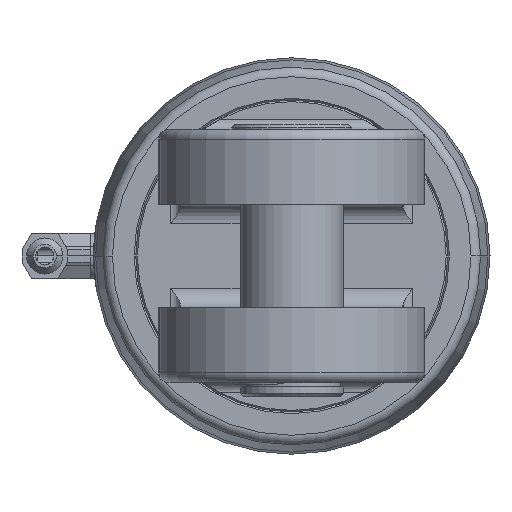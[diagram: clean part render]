
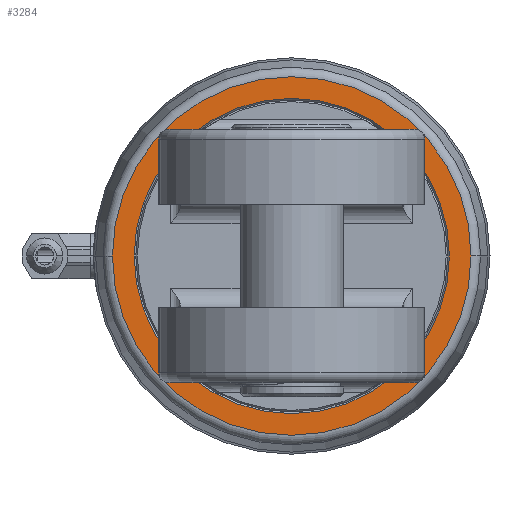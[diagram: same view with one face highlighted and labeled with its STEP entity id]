
A CAD part, left-side view. The second image highlights one B-rep face of the part: STEP entity #3284.
In plain terms, the highlighted planar face has unit normal (-1, 0, 0).
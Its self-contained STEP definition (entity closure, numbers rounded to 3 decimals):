
#67 = EDGE_LOOP ( 'NONE', ( #3268, #1676 ) ) ;
#245 = CARTESIAN_POINT ( 'NONE',  ( -938., -48.5, 0. ) ) ;
#301 = CARTESIAN_POINT ( 'NONE',  ( -938., 0., 0. ) ) ;
#346 = CARTESIAN_POINT ( 'NONE',  ( -938., 55.17, 0. ) ) ;
#418 = DIRECTION ( 'NONE',  ( 0., -1., 0. ) ) ;
#436 = CARTESIAN_POINT ( 'NONE',  ( -938., 0., 57.599 ) ) ;
#494 = VERTEX_POINT ( 'NONE', #3327 ) ;
#799 = AXIS2_PLACEMENT_3D ( 'NONE', #301, #2432, #1007 ) ;
#893 = FACE_OUTER_BOUND ( 'NONE', #67, .T. ) ;
#1007 = DIRECTION ( 'NONE',  ( 0., 1., 0. ) ) ;
#1023 = AXIS2_PLACEMENT_3D ( 'NONE', #5219, #2157, #5742 ) ;
#1072 = FACE_BOUND ( 'NONE', #5602, .T. ) ;
#1076 = CARTESIAN_POINT ( 'NONE',  ( -938., 48.5, 0. ) ) ;
#1151 = AXIS2_PLACEMENT_3D ( 'NONE', #436, #6442, #1352 ) ;
#1318 = CARTESIAN_POINT ( 'NONE',  ( -938., 0., 0. ) ) ;
#1352 = DIRECTION ( 'NONE',  ( 0., -1., 0. ) ) ;
#1676 = ORIENTED_EDGE ( 'NONE', *, *, #4443, .T. ) ;
#1825 = DIRECTION ( 'NONE',  ( 0., 1., 0. ) ) ;
#2110 = CIRCLE ( 'NONE', #799, 48.5 ) ;
#2157 = DIRECTION ( 'NONE',  ( -1., 0., 0. ) ) ;
#2432 = DIRECTION ( 'NONE',  ( 1., 0., 0. ) ) ;
#2899 = CIRCLE ( 'NONE', #1023, 55.17 ) ;
#3211 = CIRCLE ( 'NONE', #6404, 55.17 ) ;
#3268 = ORIENTED_EDGE ( 'NONE', *, *, #3984, .T. ) ;
#3284 = ADVANCED_FACE ( 'NONE', ( #893, #1072 ), #5076, .T. ) ;
#3296 = EDGE_CURVE ( 'NONE', #5498, #5906, #2110, .T. ) ;
#3327 = CARTESIAN_POINT ( 'NONE',  ( -938., -55.17, 0. ) ) ;
#3431 = AXIS2_PLACEMENT_3D ( 'NONE', #1318, #4893, #1825 ) ;
#3479 = DIRECTION ( 'NONE',  ( -1., 0., 0. ) ) ;
#3984 = EDGE_CURVE ( 'NONE', #494, #6084, #2899, .T. ) ;
#4443 = EDGE_CURVE ( 'NONE', #6084, #494, #3211, .T. ) ;
#4893 = DIRECTION ( 'NONE',  ( 1., 0., 0. ) ) ;
#5076 = PLANE ( 'NONE',  #1151 ) ;
#5219 = CARTESIAN_POINT ( 'NONE',  ( -938., 0., 0. ) ) ;
#5406 = ORIENTED_EDGE ( 'NONE', *, *, #5559, .T. ) ;
#5498 = VERTEX_POINT ( 'NONE', #245 ) ;
#5559 = EDGE_CURVE ( 'NONE', #5906, #5498, #5786, .T. ) ;
#5602 = EDGE_LOOP ( 'NONE', ( #6260, #5406 ) ) ;
#5742 = DIRECTION ( 'NONE',  ( 0., -1., 0. ) ) ;
#5786 = CIRCLE ( 'NONE', #3431, 48.5 ) ;
#5906 = VERTEX_POINT ( 'NONE', #1076 ) ;
#6084 = VERTEX_POINT ( 'NONE', #346 ) ;
#6260 = ORIENTED_EDGE ( 'NONE', *, *, #3296, .T. ) ;
#6404 = AXIS2_PLACEMENT_3D ( 'NONE', #6546, #3479, #418 ) ;
#6442 = DIRECTION ( 'NONE',  ( -1., 0., 0. ) ) ;
#6546 = CARTESIAN_POINT ( 'NONE',  ( -938., 0., 0. ) ) ;
